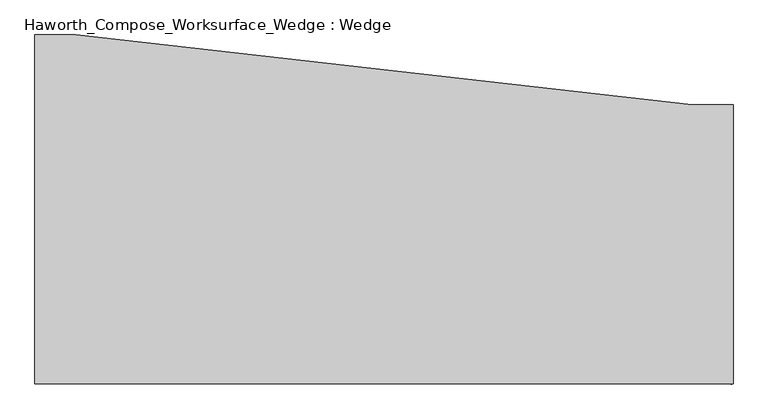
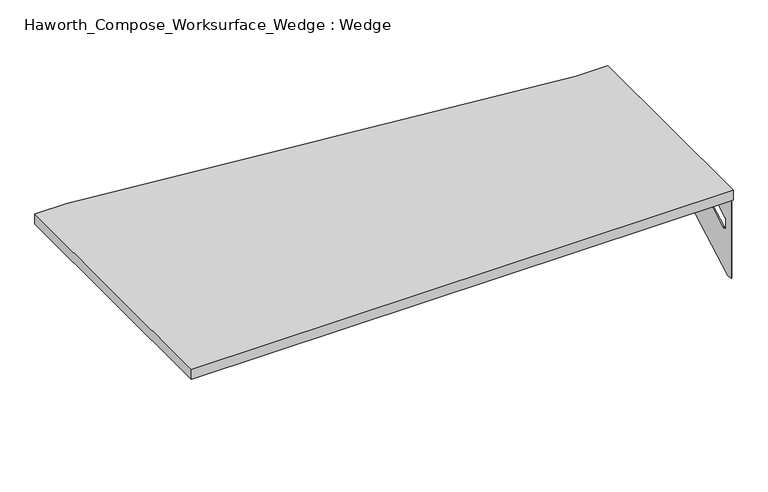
"""IFC4 building model written with IfcOpenShell, lengths in millimetres: furniture geometry, Haworth_Compose_Worksurface_Wedge : Wedge."""

from ifc_helpers import new_model, si_unit, frame, origin, place, context, project, spatial, polyline, circle_curve, outline, extrude, source, transform, mapped, element, save
from ifc_brep_helpers import plane_surface, revolved_surface, advanced_brep


def haworth_compose_worksurface_wedge_wedge_9bcfc938(model_context):
    return source(origin(), model_context, "Body", "SolidModel", [
        advanced_brep(
        [(756.44375, -381.0, 475.45625), (756.44375, -381.0, 704.05625), (756.44375, -365.125, 704.05625), (756.44375, 25.4, 704.05625), (756.44375, 25.4, 691.7192568), (756.44375, -365.125, 475.45625), (756.44375, -297.690072, 665.95625), (756.44375, -300.7663437, 665.1613425), (756.44375, -350.6730055, 637.5242776), (756.44375, -352.425, 634.6860246), (756.44375, -352.425, 611.1756969), (756.44375, -343.0776173, 605.5776439), (756.44375, -251.3564235, 656.3705539), (756.44375, -254.0355284, 665.95625), (758.825, -381.0, 475.45625), (758.825, -365.125, 475.45625), (758.825, 25.4, 691.7192568), (758.825, 25.4, 706.4375), (758.825, -365.125, 706.4375), (758.825, -365.125, 704.05625), (758.825, -381.0, 704.05625), (758.825, -297.690072, 665.95625), (758.825, -254.0355284, 665.95625), (758.825, -251.3564235, 656.3705539), (758.825, -343.0776173, 605.5776439), (758.825, -352.425, 611.1756969), (758.825, -352.425, 634.6860246), (758.825, -350.6730055, 637.5242776), (758.825, -300.7663437, 665.1613425), (717.55, 25.4, 704.05625), (717.55, 25.4, 706.4375), (717.55, -365.125, 704.05625), (717.55, -365.125, 706.4375)],
        [
            (0, 1),
            (1, 2),
            (2, 3),
            (3, 4),
            (4, 5),
            (5, 0),
            (6, 7, circle_curve(frame((756.44375, -297.690072, 659.60625), z_axis=(1.0, 0.0, 0.0), x_axis=(0.0, 1.0, 0.0)), 6.35)),
            (7, 8),
            (8, 9, circle_curve(frame((756.44375, -349.25, 634.6860246), z_axis=(1.0, 0.0, 0.0), x_axis=(0.0, 1.0, 0.0)), 3.175)),
            (9, 10),
            (10, 11, circle_curve(frame((756.44375, -346.075, 611.1756969), z_axis=(1.0, 0.0, 0.0), x_axis=(0.0, 1.0, 0.0)), 6.35)),
            (11, 12),
            (12, 13, circle_curve(frame((756.44375, -254.0355284, 660.7890106), z_axis=(1.0, 0.0, 0.0), x_axis=(0.0, 1.0, 0.0)), 5.1672394)),
            (13, 6),
            (14, 15),
            (15, 16),
            (16, 17),
            (17, 18),
            (18, 19),
            (19, 20),
            (20, 14),
            (21, 22),
            (22, 23, circle_curve(frame((758.825, -254.0355284, 660.7890106), z_axis=(-1.0, 0.0, 0.0), x_axis=(0.0, 1.0, 0.0)), 5.1672394)),
            (23, 24),
            (24, 25, circle_curve(frame((758.825, -346.075, 611.1756969), z_axis=(-1.0, 0.0, 0.0), x_axis=(0.0, 1.0, 0.0)), 6.35)),
            (25, 26),
            (26, 27, circle_curve(frame((758.825, -349.25, 634.6860246), z_axis=(-1.0, 0.0, 0.0), x_axis=(0.0, 1.0, 0.0)), 3.175)),
            (27, 28),
            (28, 21, circle_curve(frame((758.825, -297.690072, 659.60625), z_axis=(-1.0, 0.0, 0.0), x_axis=(0.0, 1.0, 0.0)), 6.35)),
            (1, 20),
            (19, 2),
            (0, 14),
            (5, 15),
            (4, 16),
            (3, 29),
            (29, 30),
            (30, 17),
            (13, 22),
            (21, 6),
            (10, 25),
            (24, 11),
            (9, 26),
            (8, 27),
            (12, 23),
            (31, 29),
            (2, 31),
            (32, 18),
            (30, 32),
            (32, 31),
            (7, 28),
        ],
        [
            plane_surface(frame((756.44375, -381.0, 475.45625), z_axis=(-1.0, 0.0, 0.0), x_axis=(0.0, -1.0, 0.0))),
            plane_surface(frame((758.825, -381.0, 475.45625), z_axis=(1.0, 0.0, 0.0), x_axis=(0.0, 1.0, 0.0))),
            plane_surface(frame((758.825, 25.4, 704.05625), z_axis=(0.0, 0.0, 1.0), x_axis=(-1.0, 0.0, 0.0))),
            plane_surface(frame((758.825, -381.0, 704.05625), z_axis=(0.0, -1.0, 0.0), x_axis=(-1.0, 0.0, 0.0))),
            plane_surface(frame((758.825, -381.0, 475.45625), z_axis=(0.0, 0.0, -1.0), x_axis=(-1.0, 0.0, 0.0))),
            plane_surface(frame((758.825, -365.125, 475.45625), z_axis=(0.0, 0.48445223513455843, -0.8748177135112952), x_axis=(-1.0, 0.0, 0.0))),
            plane_surface(frame((758.825, 25.4, 691.7192568), z_axis=(0.0, 1.0, 0.0), x_axis=(-1.0, 0.0, 0.0))),
            plane_surface(frame((758.825, -297.690072, 665.95625), z_axis=(0.0, 0.0, -1.0), x_axis=(-1.0, 0.0, 0.0))),
            revolved_surface(polyline([(756.44375, -339.72499999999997, 611.1756969), (758.825, -339.72499999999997, 611.1756969)]), (758.825, -346.075, 611.1756969), (-1.0, 0.0, 0.0)),
            plane_surface(frame((758.825, -352.425, 611.1756969), z_axis=(0.0, 1.0, 0.0), x_axis=(-1.0, 0.0, 0.0))),
            revolved_surface(polyline([(756.44375, -346.075, 634.6860246), (758.825, -346.075, 634.6860246)]), (758.825, -349.25, 634.6860246), (-1.0, 0.0, 0.0)),
            revolved_surface(polyline([(756.44375, -248.868289, 660.7890106), (758.825, -248.868289, 660.7890106)]), (758.825, -254.0355284, 660.7890106), (-1.0, 0.0, 0.0)),
            plane_surface(frame((758.825, -365.125, 704.05625), z_axis=(0.0, 0.0, -1.0), x_axis=(-1.0, 0.0, 0.0))),
            plane_surface(frame((758.825, -365.125, 706.4375), z_axis=(0.0, 0.0, 1.0), x_axis=(1.0, 0.0, 0.0))),
            plane_surface(frame((717.55, -365.125, 706.4375), z_axis=(0.0, -1.0, 0.0), x_axis=(0.0, 0.0, -1.0))),
            plane_surface(frame((717.55, 25.4, 706.4375), z_axis=(-1.0, 0.0, 0.0), x_axis=(0.0, 0.0, -1.0))),
            plane_surface(frame((758.825, -251.3564235, 656.3705539), z_axis=(0.0, -0.4844522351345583, 0.8748177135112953), x_axis=(-1.0, 0.0, 0.0))),
            plane_surface(frame((758.825, -350.6730055, 637.5242776), z_axis=(0.0, 0.4844522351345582, -0.8748177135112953), x_axis=(-1.0, 0.0, 0.0))),
            revolved_surface(polyline([(756.44375, -291.34007199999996, 659.60625), (758.825, -291.34007199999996, 659.60625)]), (758.825, -297.690072, 659.60625), (-1.0, 0.0, 0.0)),
        ],
        [
            (0, [[1, 2, 3, 4, 5, 6], [7, 8, 9, 10, 11, 12, 13, 14]]),
            (1, [[15, 16, 17, 18, 19, 20, 21], [22, 23, 24, 25, 26, 27, 28, 29]]),
            (2, [[30, -20, 31, -2]]),
            (3, [[-1, 32, -21, -30]]),
            (4, [[-6, 33, -15, -32]]),
            (5, [[-5, 34, -16, -33]]),
            (6, [[-4, 35, 36, 37, -17, -34]]),
            (7, [[-14, 38, -22, 39]]),
            (8, [[-11, 40, -25, 41]]),
            (9, [[-10, 42, -26, -40]]),
            (10, [[-9, 43, -27, -42]]),
            (11, [[-13, 44, -23, -38]]),
            (12, [[45, -35, -3, 46]]),
            (13, [[47, -18, -37, 48]]),
            (14, [[-47, 49, -46, -31, -19]]),
            (15, [[-45, -49, -48, -36]]),
            (16, [[-12, -41, -24, -44]]),
            (17, [[-8, 50, -28, -43]]),
            (18, [[-7, -39, -29, -50]]),
        ],
    ),
        extrude(outline(polyline([(762.0, -381.0), (-762.0, -381.0), (-762.0, 381.0), (-673.1, 381.0), (673.1, 228.6), (762.0, 228.6), (762.0, -381.0)])), frame((0.0, 0.0, 706.4375), z_axis=(0.0, 0.0, 1.0), x_axis=(1.0, 0.0, 0.0)), (0.0, 0.0, 1.0), 30.1625),
    ])


if __name__ == "__main__":
    model = new_model("IFC4")
    model_context = context("Model", 3, world=origin())
    ifc_project = project(units=[si_unit("LENGTHUNIT", "METRE", prefix="MILLI")], contexts=[model_context])
    site = spatial("IfcSite", under=ifc_project)
    building = spatial("IfcBuilding", under=site)
    placement = place(None, origin())
    haworth_compose_worksurface_wedge_wedge_shape = haworth_compose_worksurface_wedge_wedge_9bcfc938(model_context)
    element("IfcFurniture", 1, ObjectType="Haworth_Compose_Worksurface_Wedge : Wedge", at=placement, inside=building, context=model_context, shape_type="MappedRepresentation", body=[
        mapped(haworth_compose_worksurface_wedge_wedge_shape, transform((0.0, 0.0, 0.0), x_axis=(1.0, 0.0, 0.0), y_axis=(0.0, 1.0, 0.0), z_axis=(0.0, 0.0, 1.0))),
    ])
    save(model, "model.ifc")
